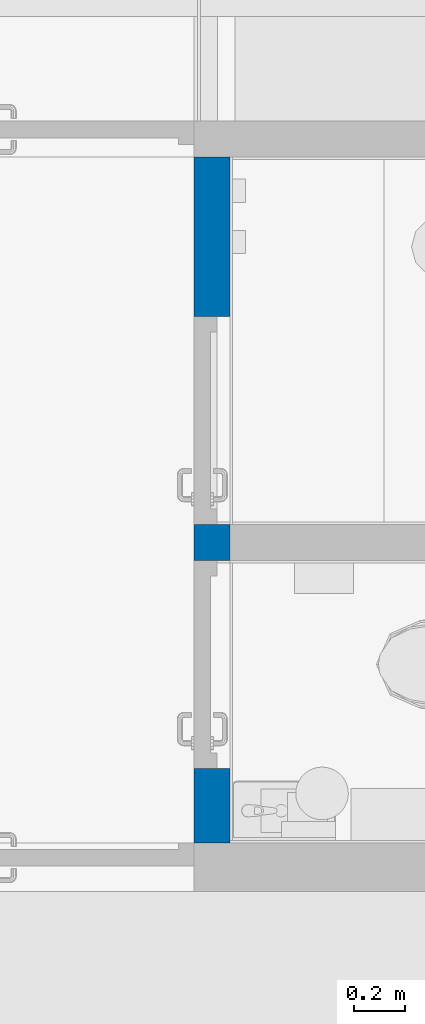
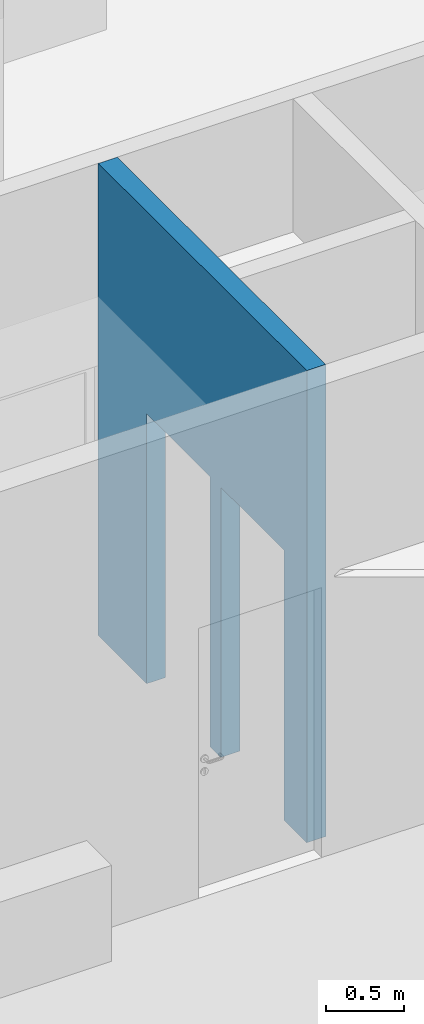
# One storey, part 91 of 301: 1 wall, 2 openings.
"""IFC2X3 building model written with IfcOpenShell, lengths in millimetres."""

from ifc_helpers import new_model, entity, si_unit, converted_unit, derived_unit, money_unit, direction, frame, origin_with_axes, place, context, subcontext, project, spatial, faceted_brep, material, type_object, element, save


model = new_model("IFC2X3")

# Units and contexts
model_context = context("Model", 3, precision=0.01, world=origin_with_axes(), true_north=direction((0.0, 1.0)))
body_context = subcontext(model_context, "Body", "Model", "MODEL_VIEW")
ifc_project = project(units=[si_unit("LENGTHUNIT", "METRE", prefix="MILLI"), si_unit("AREAUNIT", "SQUARE_METRE"), si_unit("VOLUMEUNIT", "CUBIC_METRE"), converted_unit("PLANEANGLEUNIT", "DEGREE", entity("IfcPlaneAngleMeasure", 0.0174532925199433), si_unit("PLANEANGLEUNIT", "RADIAN"), dimensions=[0, 0, 0, 0, 0, 0, 0]), money_unit("EUR"), converted_unit("TIMEUNIT", "Year", entity("IfcTimeMeasure", 31557600.0), si_unit("TIMEUNIT", "SECOND"), dimensions=[0, 0, 1, 0, 0, 0, 0]), si_unit("MASSUNIT", "GRAM", prefix="KILO"), si_unit("THERMODYNAMICTEMPERATUREUNIT", "DEGREE_CELSIUS"), si_unit("LUMINOUSINTENSITYUNIT", "LUMEN"), si_unit("ENERGYUNIT", "JOULE", prefix="MEGA"), derived_unit("THERMALCONDUCTANCEUNIT", [(si_unit("POWERUNIT", "WATT"), 1), (si_unit("LENGTHUNIT", "METRE"), -1), (si_unit("THERMODYNAMICTEMPERATUREUNIT", "KELVIN"), -1)]), derived_unit("SPECIFICHEATCAPACITYUNIT", [(si_unit("ENERGYUNIT", "JOULE"), 1), (si_unit("MASSUNIT", "GRAM", prefix="KILO"), -1), (si_unit("THERMODYNAMICTEMPERATUREUNIT", "KELVIN"), -1)]), derived_unit("MASSDENSITYUNIT", [(si_unit("MASSUNIT", "GRAM", prefix="KILO"), 1), (si_unit("VOLUMEUNIT", "CUBIC_METRE"), -1)])], contexts=[model_context])

# Site, building, storey
site_placement = place(None, frame((0.0, 0.0, 8650.0), z_axis=(0.0, 0.0, 1.0), x_axis=(1.0, 0.0, 0.0)))
site = spatial("IfcSite", under=ifc_project, at=site_placement, Name="43301:001:0844", CompositionType="ELEMENT")
building_placement = place(site_placement, origin_with_axes())
building = spatial("IfcBuilding", under=site, at=building_placement, Name="Kuressaare Ametikooli tuulikute mehaanikute õppekorpus", CompositionType="ELEMENT")
storey_placement = place(building_placement, origin_with_axes())
storey = spatial("IfcBuildingStorey", under=building, at=storey_placement, Name="1.korrus", CompositionType="ELEMENT", Elevation=0.0)

# Wall, openings
ifc_material = material(Name="Betoonõõnesplokk")
wall_type = type_object("IfcWallType", Name="SS-1.2 140", PredefinedType="NOTDEFINED")
wall_placement = place(storey_placement, frame((110555.5126011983, 17954.8092818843, 0.0), z_axis=(0.0, 0.0, 1.0), x_axis=(-2.408498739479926e-07, 0.999999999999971, 0.0)))
wall = element("IfcWall", 1, at=wall_placement, inside=storey, type_object=wall_type, material=ifc_material, Name="Sisesein", context=body_context, shape_type="Brep", body=[
    faceted_brep([(1240.02647694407, 0.0, 0.0), (1240.02647694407, 0.0, 2110.0), (2050.026476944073, 0.0, 2110.0), (2050.026476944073, 0.0, 0.0), (2670.027110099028, 0.0, 0.0), (2670.027110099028, 0.0, 3690.0), (0.0, 0.0, 3690.0), (0.0, 0.0, 0.0), (290.026229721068, 0.0, 0.0), (290.026229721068, 0.0, 2110.0), (1100.02622972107, 0.0, 2110.0), (1100.02622972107, 0.0, 0.0), (1240.026476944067, 140.0000000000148, 0.0), (1240.026476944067, 140.0000000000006, 2110.0), (2050.026476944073, 140.0000000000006, 2110.0), (2050.026476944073, 140.0000000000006, 0.0), (2670.027124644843, 140.0000000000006, 0.0), (2670.027124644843, 140.0000000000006, 3690.0), (-0.0002772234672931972, 140.0000000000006, 3690.0), (-0.0002772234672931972, 140.0000000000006, 0.0), (290.026229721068, 140.0000000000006, 0.0), (290.026229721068, 140.0000000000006, 2110.0), (1100.02622972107, 140.0000000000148, 2110.0), (1100.02622972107, 140.0000000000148, 0.0)], [[[0, 1, 2, 3, 4, 5, 6, 7, 8, 9, 10, 11]], [[1, 0, 12, 13]], [[2, 1, 13, 14]], [[3, 2, 14, 15]], [[3, 15, 16, 4]], [[5, 4, 16, 17]], [[5, 17, 18, 6]], [[18, 19, 7, 6]], [[8, 7, 19, 20]], [[8, 20, 21, 9]], [[9, 21, 22, 10]], [[10, 22, 23, 11]], [[12, 0, 11, 23]], [[13, 12, 23, 22, 21, 20, 19, 18, 17, 16, 15, 14]]]),
])
opening_1_placement = place(wall_placement, frame((695.0262297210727, 0.0, 0.0), z_axis=(0.0, 0.0, 1.0), x_axis=(1.0, 0.0, 0.0)))
element("IfcOpeningElement", 2, at=opening_1_placement, cuts=wall, Name="PU8", context=body_context, shape_type="Brep", body=[
    faceted_brep([(-405.0000000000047, -1.00064307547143, 2110.0), (-405.0000000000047, -1.00064307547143, 0.0), (405.0000000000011, -1.000643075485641, 0.0), (405.0000000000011, -1.000643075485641, 2110.0), (-405.0000000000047, 141.0006430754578, 2110.0), (-405.0000000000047, 141.0006430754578, 0.0), (404.9999999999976, 141.0006430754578, 0.0), (404.9999999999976, 141.0006430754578, 2110.0)], [[[0, 1, 2, 3]], [[4, 5, 1, 0]], [[5, 6, 2, 1]], [[6, 7, 3, 2]], [[7, 4, 0, 3]], [[6, 5, 4, 7]]]),
])
opening_2_placement = place(wall_placement, frame((1645.026476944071, 0.0, 0.0), z_axis=(0.0, 0.0, 1.0), x_axis=(1.0, 0.0, 0.0)))
element("IfcOpeningElement", 3, at=opening_2_placement, cuts=wall, Name="NU8", context=body_context, shape_type="Brep", body=[
    faceted_brep([(-405.0000000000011, -1.000643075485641, 2110.0), (-405.0000000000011, -1.000643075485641, 0.0), (405.0000000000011, -1.000643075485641, 0.0), (405.0000000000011, -1.000643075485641, 2110.0), (-405.0000000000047, 141.0006430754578, 2110.0), (-405.0000000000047, 141.0006430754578, 0.0), (405.0000000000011, 141.0006430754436, 0.0), (405.0000000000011, 141.0006430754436, 2110.0)], [[[0, 1, 2, 3]], [[4, 5, 1, 0]], [[5, 6, 2, 1]], [[6, 7, 3, 2]], [[7, 4, 0, 3]], [[6, 5, 4, 7]]]),
])

save(model, "model.ifc")
